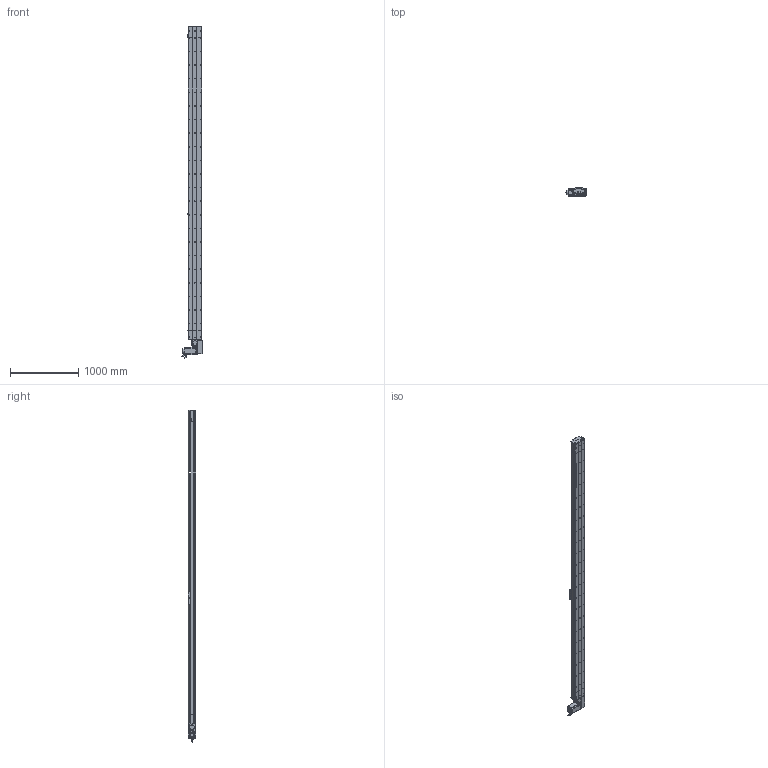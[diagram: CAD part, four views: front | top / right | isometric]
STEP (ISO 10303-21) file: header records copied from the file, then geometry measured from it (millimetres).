
FILE_DESCRIPTION (( 'STEP AP214' ), '1' );
FILE_NAME ('D20 TBH LH S4300.STEP', '2010-07-01T09:26:07', ( 'Conseil Régional Haute-Normandie' ), ( 'Conseil Régional Haute-Normandie' ), 'SwSTEP 2.0', 'SolidWorks 2010', '' );
FILE_SCHEMA (( 'AUTOMOTIVE_DESIGN' ));
Length unit declared in the file: millimetre
Products named in the file (40): rail + couroie  D20 S4300; vis M5 L5_Default; poulie head D20_Default; couvercle D20 S4300_Default; D20 TBH LH S4300; couroie_Default; cache D20_Default; corp D20 S4300_Default; chariot D20B_Default; cache arbre D20_Default; plaque de  bout head D20B LH_Default; Course B L4300_Default; head LH_Default; couvercle head D20_Default; rail head D20; corpl head D20_Default; guide D20B; Chariot D20B; vis M5 L70_Default; avant 110BLDC170A-630x; vis M5 L8 90°_Default; Moteur motionking 110BLDC170A-640x; corps 110BLDC170A-630x; vis M5 L25_Default; rail tail D20; vis M5 L12_Default; corpl tail D20 +100_Default; Plaque racord D20LH_Default; Renvoi LH D20_Default; codeur 110BLDC170A-630x; Conecteur2_Default; tete d''axe poulie D20B; couvercle tail D20_Default; Couroie tail D20_Default; plaque de  bout tail D20_Default; poulie tail D20_Default; tail D20+100_Default; vis M8 L12_Default; clavette; Conecteur_Default
Assembly tree (71 placements, depth 4):
  D20 TBH LH S4300
    Course B L4300_Default
      rail + couroie  D20 S4300
      corp D20 S4300_Default
      couvercle D20 S4300_Default
    head LH_Default
      vis M5 L25_Default  x2
      vis M5 L12_Default  x10
      vis M5 L5_Default  x4
      poulie head D20_Default
      Moteur motionking 110BLDC170A-640x
        avant 110BLDC170A-630x
        clavette
        Conecteur_Default
        corps 110BLDC170A-630x
        codeur 110BLDC170A-630x
        Conecteur2_Default
      Renvoi LH D20_Default
      couroie_Default
      vis M5 L70_Default  x4
      Plaque racord D20LH_Default
      vis M8 L12_Default  x4
      cache D20_Default  x2
      couvercle head D20_Default
      plaque de  bout head D20B LH_Default
      rail head D20
      corpl head D20_Default
      cache arbre D20_Default
    tail D20+100_Default
      vis M5 L12_Default  x4
      vis M5 L8 90°_Default  x2
      plaque de  bout tail D20_Default
      couvercle tail D20_Default
      Couroie tail D20_Default
      rail tail D20
      tete d''axe poulie D20B
      poulie tail D20_Default
      corpl tail D20 +100_Default
      vis M5 L25_Default  x2
    chariot D20B_Default
      vis M5 L12_Default  x4
      Chariot D20B
      guide D20B  x2
Bounding box: 304.2 x 115.7 x 4880 mm (x, y, z)
Volume: 35984858.9 mm3; surface area: 9019536.1 mm2
Topology: 95 solids, 95 shells, 2983 faces, 7803 edges, 5053 vertices
Faces by surface type: plane 1668, cylinder 991, bspline 136, cone 99, torus 89
Entity records: 99274 total; most frequent: CARTESIAN_POINT 32839, ORIENTED_EDGE 12262, DIRECTION 11426, EDGE_CURVE 6131, VERTEX_POINT 4039, AXIS2_PLACEMENT_3D 3822, LINE 3782, VECTOR 3782
